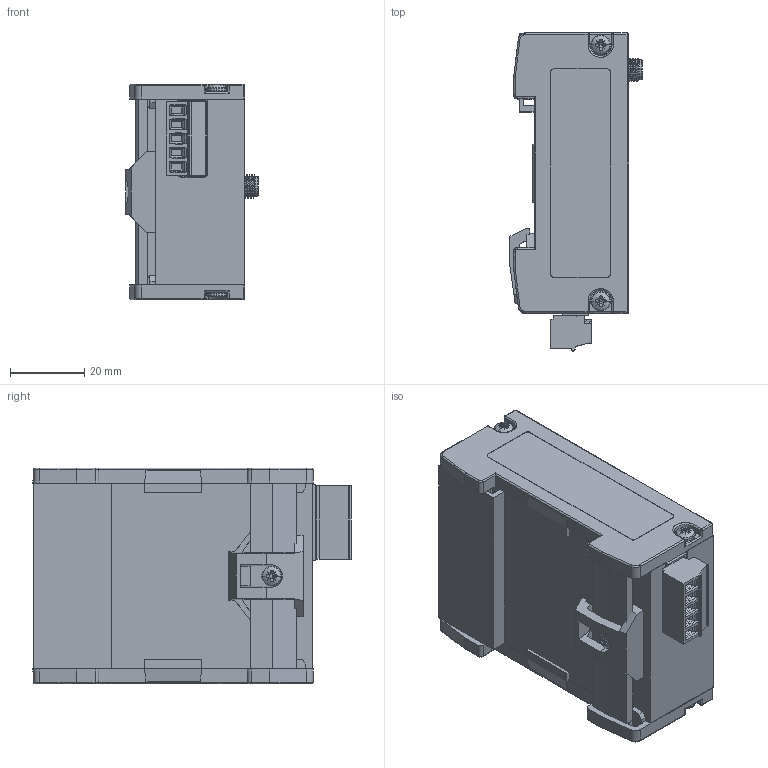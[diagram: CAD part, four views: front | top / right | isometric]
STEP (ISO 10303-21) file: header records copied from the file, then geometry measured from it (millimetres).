
FILE_DESCRIPTION(('FreeCAD Model'),'2;1');
FILE_NAME('C:/Users/bruenen/Desktop/700-875-WIF01.step', '2016-04-19T15:11:46',('Author'),(''), 'Open CASCADE STEP processor 6.8','FreeCAD','Unknown');
FILE_SCHEMA(('AUTOMOTIVE_DESIGN_CC2 { 1 2 10303 214 -1 1 5 4 }'));
Length unit declared in the file: millimetre
Products named in the file (43): ASSEMBLY; HUTSCHIENENCLIP_A001_(Mirror_#2); RJ049; RJ048; RJ046; RJ047; SEITEN_1; 5992189_050; 5992189_051; 5992189_052; 5992189_053; 5992189_054; Aluprofil_50_mm; Fusion008; Fusion001; Fusion002; Fusion003; Cut013; SEITEN_002_(Mirror_#1); mc_1.5-5-g-3.81_p20_thr; C-1734366-003; SMA-J-P-X-ST-TH002; eine_Antenne001; Extrude023; Extrude024; Extrude025; Extrude026; Extrude028; Extrude029; Extrude030; Extrude031; Extrude032; TXT_1.; TXT_Helmholz; TXT_P1_LAN002; TXT_P2_LAN003; TXT_P3_LAN003; TXT_P4_LAN003; TXT_USB002; TXT_RE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
Assembly tree (42 placements, depth 2):
  ASSEMBLY
    HUTSCHIENENCLIP_A001_(Mirror_#2)
    RJ049
    RJ048
    RJ046
    RJ047
    SEITEN_1
    5992189_050
    5992189_051
    5992189_052
    5992189_053
    5992189_054
    Aluprofil_50_mm
    Fusion008
    Fusion001
    Fusion002
    Fusion003
    Cut013
    SEITEN_002_(Mirror_#1)
    mc_1.5-5-g-3.81_p20_thr
    C-1734366-003
    SMA-J-P-X-ST-TH002
    eine_Antenne001
    Extrude023
    Extrude024
    Extrude025
    Extrude026
    Extrude028
    Extrude029
    Extrude030
    Extrude031
    Extrude032
    TXT_1.
    TXT_Helmholz
    TXT_P1_LAN002
    TXT_P2_LAN003
    TXT_P3_LAN003
    TXT_P4_LAN003
    TXT_USB002
    TXT_RE
    TXT_X
    TXT_100
    TXT_WIFI
Bounding box: 35.55 x 85.56 x 58 mm (x, y, z)
Volume: 37918.6 mm3; surface area: 63057.9 mm2
Topology: 105 solids, 497 shells, 5980 faces, 17921 edges, 12635 vertices
Faces by surface type: plane 3289, cylinder 1040, extrusion 755, bspline 479, cone 135, torus 108, revolution 100, sphere 74
Full cylindrical faces by diameter (mm): 2 x2, 2.8 x8, 6.4 x1, 10 x1
Entity records: 638400 total; most frequent: CARTESIAN_POINT 304014, DIRECTION 47078, ORIENTED_EDGE 32699, PCURVE 32699, DEFINITIONAL_REPRESENTATION 32699, VECTOR 31191, LINE 30436, EDGE_CURVE 17845
